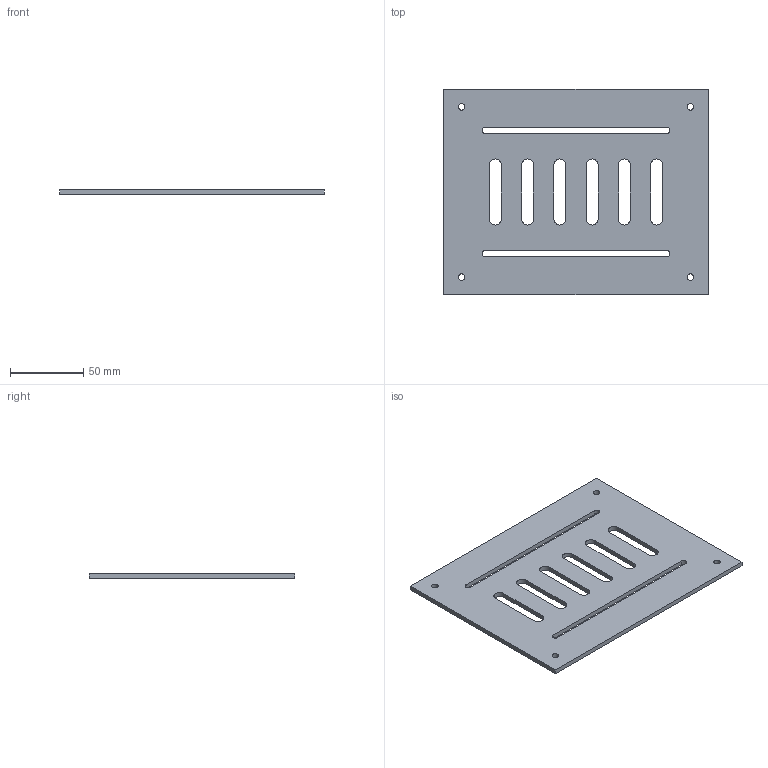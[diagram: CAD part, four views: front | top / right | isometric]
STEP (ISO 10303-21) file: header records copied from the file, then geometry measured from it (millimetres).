
FILE_DESCRIPTION(('Open CASCADE Model'),'2;1');
FILE_NAME('Open CASCADE Shape Model','2026-10-02T16:08:57',('Author'),( 'Open CASCADE'),'Open CASCADE STEP processor 7.8','Open CASCADE 7.8' ,'Unknown');
FILE_SCHEMA(('AUTOMOTIVE_DESIGN { 1 0 10303 214 1 1 1 1 }'));
Length unit declared in the file: millimetre
Products named in the file (1): Open CASCADE STEP translator 7.8 7
Bounding box: 180 x 140 x 3.2 mm (x, y, z)
Volume: 70219.2 mm3; surface area: 49685.8 mm2
Topology: 1 solids, 1 shells, 42 faces, 120 edges, 80 vertices
Faces by surface type: plane 22, cylinder 20
Full cylindrical faces by diameter (mm): 4.4 x4
Entity records: 2934 total; most frequent: CARTESIAN_POINT 551, DIRECTION 418, ORIENTED_EDGE 240, PCURVE 240, DEFINITIONAL_REPRESENTATION 240, LINE 212, VECTOR 212, EDGE_CURVE 120
